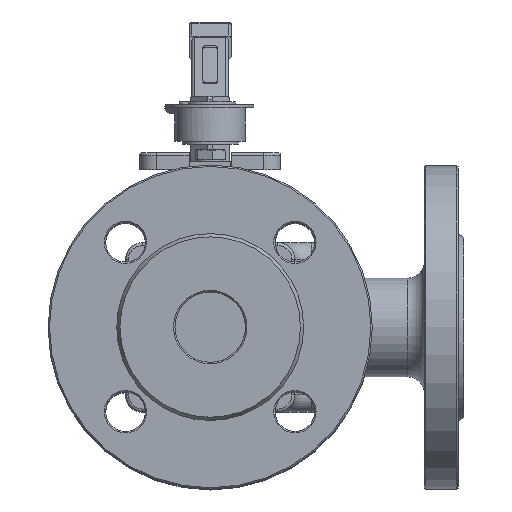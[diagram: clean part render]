
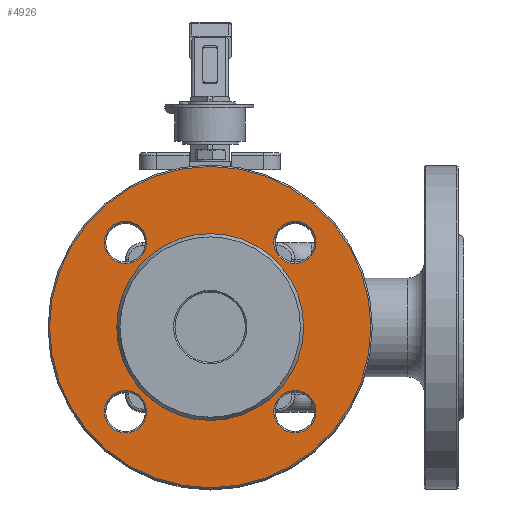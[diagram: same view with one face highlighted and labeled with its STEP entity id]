
A CAD part, top view. The second image highlights one B-rep face of the part: STEP entity #4926.
In plain terms, the highlighted planar face has unit normal (0, 0, 1).
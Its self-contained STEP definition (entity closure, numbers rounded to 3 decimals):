
#4926=ADVANCED_FACE('',(#13898,#13900,#13902,#13904,#13906,#13908),#13910,.T.);
#13898=FACE_BOUND('',#13899,.T.);
#13899=EDGE_LOOP('',(#18422));
#13900=FACE_BOUND('',#13901,.T.);
#13901=EDGE_LOOP('',(#18423));
#13902=FACE_BOUND('',#13903,.T.);
#13903=EDGE_LOOP('',(#18424));
#13904=FACE_BOUND('',#13905,.T.);
#13905=EDGE_LOOP('',(#18425));
#13906=FACE_BOUND('',#13907,.T.);
#13907=EDGE_LOOP('',(#18426));
#13908=FACE_BOUND('',#13909,.T.);
#13909=EDGE_LOOP('',(#18427));
#13910=PLANE('',#13911);
#13911=AXIS2_PLACEMENT_3D('',#13912,#13913,#13914);
#13912=CARTESIAN_POINT('',(0.,0.,88.));
#13913=DIRECTION('',(0.,0.,1.));
#13914=DIRECTION('',(1.,0.,0.));
#18422=ORIENTED_EDGE('',*,*,#20965,.F.);
#18423=ORIENTED_EDGE('',*,*,#20952,.F.);
#18424=ORIENTED_EDGE('',*,*,#20950,.F.);
#18425=ORIENTED_EDGE('',*,*,#20966,.F.);
#18426=ORIENTED_EDGE('',*,*,#20951,.F.);
#18427=ORIENTED_EDGE('',*,*,#20949,.F.);
#20949=EDGE_CURVE('',#24406,#24406,#24407,.T.);
#20950=EDGE_CURVE('',#24408,#24408,#24409,.T.);
#20951=EDGE_CURVE('',#24410,#24410,#24411,.T.);
#20952=EDGE_CURVE('',#24412,#24412,#24413,.T.);
#20965=EDGE_CURVE('',#24438,#24438,#24439,.T.);
#20966=EDGE_CURVE('',#24440,#24440,#24441,.T.);
#24406=VERTEX_POINT('',#43651);
#24407=CIRCLE('',#43652,7.5);
#24408=VERTEX_POINT('',#43656);
#24409=CIRCLE('',#43657,7.5);
#24410=VERTEX_POINT('',#43661);
#24411=CIRCLE('',#43662,7.5);
#24412=VERTEX_POINT('',#43666);
#24413=CIRCLE('',#43667,7.5);
#24438=VERTEX_POINT('',#43731);
#24439=CIRCLE('',#43732,57.);
#24440=VERTEX_POINT('',#43736);
#24441=CIRCLE('',#43737,33.155);
#43651=CARTESIAN_POINT('',(-22.552,-30.052,88.));
#43652=AXIS2_PLACEMENT_3D('',#43653,#43654,#43655);
#43653=CARTESIAN_POINT('',(-30.052,-30.052,88.));
#43654=DIRECTION('',(0.,0.,1.));
#43655=DIRECTION('',(1.,0.,0.));
#43656=CARTESIAN_POINT('',(-22.552,30.052,88.));
#43657=AXIS2_PLACEMENT_3D('',#43658,#43659,#43660);
#43658=CARTESIAN_POINT('',(-30.052,30.052,88.));
#43659=DIRECTION('',(0.,0.,1.));
#43660=DIRECTION('',(1.,0.,0.));
#43661=CARTESIAN_POINT('',(37.552,30.052,88.));
#43662=AXIS2_PLACEMENT_3D('',#43663,#43664,#43665);
#43663=CARTESIAN_POINT('',(30.052,30.052,88.));
#43664=DIRECTION('',(0.,0.,1.));
#43665=DIRECTION('',(1.,0.,0.));
#43666=CARTESIAN_POINT('',(37.552,-30.052,88.));
#43667=AXIS2_PLACEMENT_3D('',#43668,#43669,#43670);
#43668=CARTESIAN_POINT('',(30.052,-30.052,88.));
#43669=DIRECTION('',(0.,0.,1.));
#43670=DIRECTION('',(1.,0.,0.));
#43731=CARTESIAN_POINT('',(57.,0.,88.));
#43732=AXIS2_PLACEMENT_3D('',#43733,#43734,#43735);
#43733=CARTESIAN_POINT('',(0.,0.,88.));
#43734=DIRECTION('',(0.,0.,-1.));
#43735=DIRECTION('',(1.,0.,0.));
#43736=CARTESIAN_POINT('',(33.155,0.,88.));
#43737=AXIS2_PLACEMENT_3D('',#43738,#43739,#43740);
#43738=CARTESIAN_POINT('',(0.,0.,88.));
#43739=DIRECTION('',(0.,0.,1.));
#43740=DIRECTION('',(1.,0.,0.));
